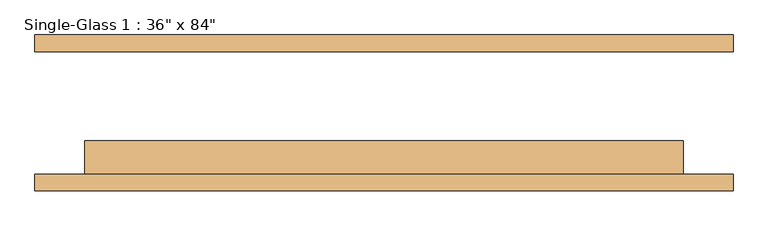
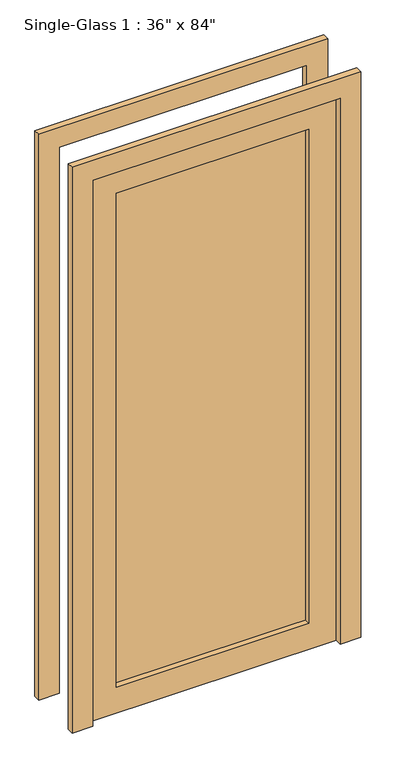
"""IFC4 building model written with IfcOpenShell, lengths in millimetres: door geometry."""

from ifc_helpers import new_model, si_unit, frame, origin, place, context, project, spatial, polyline, outline, extrude, source, transform, mapped, element, save


def door_9b494dca(model_context):
    return source(origin(), model_context, "Body", "SweptSolid", [
        extrude(outline(polyline([(2133.6, 457.2), (0.0, 457.2), (0.0, 533.4), (2209.8, 533.4), (2209.8, -533.4), (0.0, -533.4), (0.0, -457.2), (2133.6, -457.2), (2133.6, 457.2)])), frame((0.0, 93.6625, 0.0), z_axis=(0.0, 1.0, 0.0), x_axis=(0.0, 0.0, 1.0)), (0.0, 0.0, 1.0), 25.4),
        extrude(outline(polyline([(2133.6, 457.2), (0.0, 457.2), (0.0, 533.4), (2209.8, 533.4), (2209.8, -533.4), (0.0, -533.4), (0.0, -457.2), (2133.6, -457.2), (2133.6, 457.2)])), frame((0.0, -119.0625, 0.0), z_axis=(0.0, 1.0, 0.0), x_axis=(0.0, 0.0, 1.0)), (0.0, 0.0, 1.0), 25.4),
        extrude(outline(polyline([(355.6, -65.0875), (355.6, -71.4375), (-355.6, -71.4375), (-355.6, -65.0875), (355.6, -65.0875)])), frame((0.0, 0.0, 101.6), z_axis=(0.0, 0.0, 1.0), x_axis=(1.0, 0.0, 0.0)), (0.0, 0.0, 1.0), 1930.4),
        extrude(outline(polyline([(2133.6, 457.2), (2133.6, -457.2), (0.0, -457.2), (0.0, 457.2), (2133.6, 457.2)]), holes=[polyline([(2032.0, -355.6), (2032.0, 355.6), (101.6, 355.6), (101.6, -355.6), (2032.0, -355.6)])]), frame((0.0, -93.6625, 0.0), z_axis=(0.0, 1.0, 0.0), x_axis=(0.0, 0.0, 1.0)), (0.0, 0.0, 1.0), 50.8),
    ])


if __name__ == "__main__":
    model = new_model("IFC4")
    model_context = context("Model", 3, world=origin())
    ifc_project = project(units=[si_unit("LENGTHUNIT", "METRE", prefix="MILLI")], contexts=[model_context])
    site = spatial("IfcSite", under=ifc_project)
    building = spatial("IfcBuilding", under=site)
    placement = place(None, origin())
    door_shape = door_9b494dca(model_context)
    element("IfcDoor", 1, ObjectType="Single-Glass 1 : 36\" x 84\"", at=placement, inside=building, context=model_context, shape_type="MappedRepresentation", body=[
        mapped(door_shape, transform((0.0, 0.0, 0.0), x_axis=(1.0, 0.0, 0.0), y_axis=(0.0, 1.0, 0.0), z_axis=(0.0, 0.0, 1.0))),
    ])
    save(model, "model.ifc")
